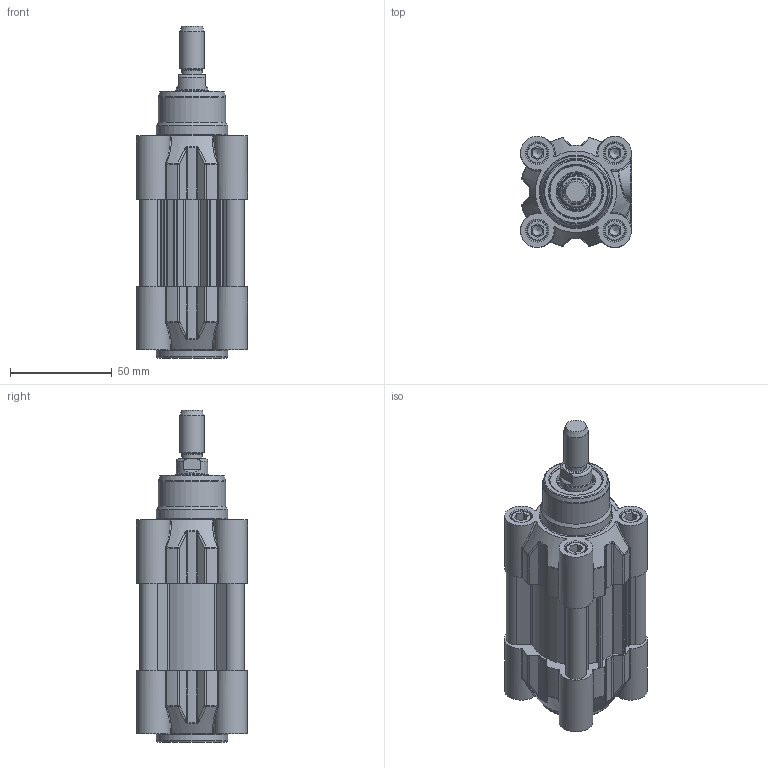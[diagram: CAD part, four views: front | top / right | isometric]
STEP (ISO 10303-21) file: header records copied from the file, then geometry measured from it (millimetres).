
FILE_DESCRIPTION(/* description */ ('CILINDRO D.E. MAGNETICO AMMORTIZZATO ISO 15552'),/* implementation_level */ '2;1');
FILE_NAME(/* name */ 'T:\Archivio Inventor\- 00 NUOVI STP PER SITO CON STELO CHE SI MUOVE\SERIE H - U\SERIE HDM\HDM040-TUBO NUOVO\HDM040.000.GS.M.stp',/* time_stamp */ '2018-07-26T08:29:33+02:00',/* author */ ('carlo.corazza'),/* organization */ (''),/* preprocessor_version */ 'ST-DEVELOPER v16.5',/* originating_system */ 'Autodesk Inventor 2017',/* authorisation */ '');
FILE_SCHEMA (('AUTOMOTIVE_DESIGN { 1 0 10303 214 3 1 1 }'));
Length unit declared in the file: millimetre
Products named in the file (5): HDM040.000.GS.M; TP; TA; CORPO-000; STELO-000
Assembly tree (4 placements, depth 2):
  HDM040.000.GS.M
    TP
    TA
    CORPO-000
    STELO-000
Bounding box: 54.5 x 54.5 x 163 mm (x, y, z)
Volume: 191416.5 mm3; surface area: 84938.9 mm2
Topology: 6 solids, 17 shells, 946 faces, 2289 edges, 1455 vertices
Faces by surface type: plane 372, cylinder 259, bspline 128, torus 87, cone 82, sphere 18
Full cylindrical faces by diameter (mm): 2.5 x2, 2.9 x2, 4.8 x2, 4.917 x8, 5.25 x2, 6 x8, 6.2 x8, 7 x2, 8.3 x2, 9.8 x4, 9.9 x2, 10 x14, 10.3 x8, 11.445 x2, 12 x1, 15.5 x1, 16 x1, 16.8 x1, 16.847 x1, 20 x1, 21 x2, 26 x3, 28 x2, 33 x1, 35 x2, 40 x1
Entity records: 30095 total; most frequent: CARTESIAN_POINT 8280, DIRECTION 4156, ORIENTED_EDGE 4032, EDGE_CURVE 2016, AXIS2_PLACEMENT_3D 1591, VERTEX_POINT 1400, EDGE_LOOP 1282, LINE 974
